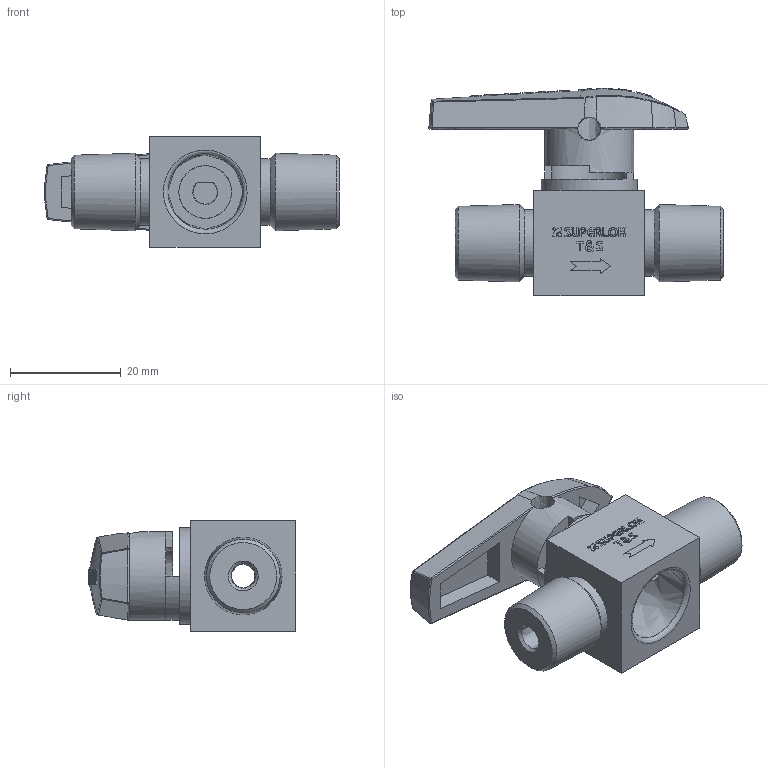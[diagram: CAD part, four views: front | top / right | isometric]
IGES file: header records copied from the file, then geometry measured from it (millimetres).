
Global section: file name: SPV1-M4N; native system: Autodesk Inventor 2016; preprocessor: unknown; author: DESIGNPC2; date: 20160502.090943; units: millimetre
Bounding box: 53.17 x 37.5 x 20.01 mm (x, y, z)
Volume: 12731.1 mm3; surface area: 7365.1 mm2
Topology: 2 solids, 2 shells, 403 faces, 1075 edges, 713 vertices
Faces by surface type: bspline 403
